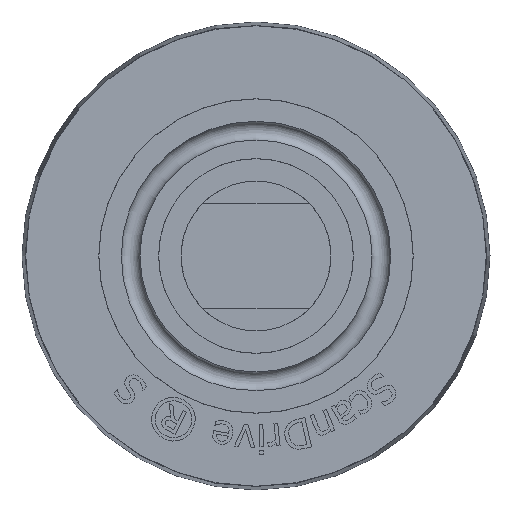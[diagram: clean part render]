
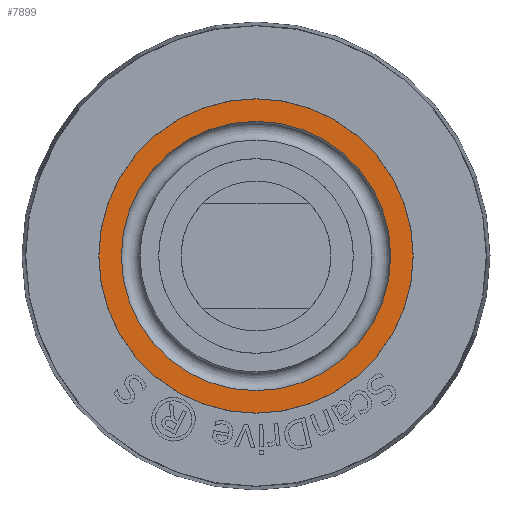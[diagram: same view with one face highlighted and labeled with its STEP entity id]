
A CAD part, left-side view. The second image highlights one B-rep face of the part: STEP entity #7899.
In plain terms, the highlighted planar face has unit normal (-1, 0, 0).
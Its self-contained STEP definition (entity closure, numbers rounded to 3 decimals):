
#57=CIRCLE('',#8278,17.99);
#58=CIRCLE('',#8280,20.99);
#144=FACE_BOUND('',#1474,.T.);
#991=FACE_OUTER_BOUND('',#1473,.T.);
#1473=EDGE_LOOP('',(#6274));
#1474=EDGE_LOOP('',(#6275));
#3585=VERTEX_POINT('',#12227);
#3586=VERTEX_POINT('',#12230);
#4556=EDGE_CURVE('',#3585,#3585,#57,.T.);
#4557=EDGE_CURVE('',#3586,#3586,#58,.T.);
#6274=ORIENTED_EDGE('',*,*,#4557,.T.);
#6275=ORIENTED_EDGE('',*,*,#4556,.F.);
#7559=PLANE('',#8279);
#7899=ADVANCED_FACE('',(#991,#144),#7559,.T.);
#8278=AXIS2_PLACEMENT_3D('',#12228,#9087,#9088);
#8279=AXIS2_PLACEMENT_3D('',#12229,#9089,#9090);
#8280=AXIS2_PLACEMENT_3D('',#12231,#9091,#9092);
#9087=DIRECTION('center_axis',(-1.,0.,0.));
#9088=DIRECTION('ref_axis',(0.,0.,1.));
#9089=DIRECTION('center_axis',(-1.,0.,0.));
#9090=DIRECTION('ref_axis',(0.,0.,1.));
#9091=DIRECTION('center_axis',(-1.,0.,0.));
#9092=DIRECTION('ref_axis',(0.,0.,1.));
#12227=CARTESIAN_POINT('',(-225.,0.,17.99));
#12228=CARTESIAN_POINT('Origin',(-225.,0.,0.));
#12229=CARTESIAN_POINT('Origin',(-225.,0.,17.99));
#12230=CARTESIAN_POINT('',(-225.,0.,20.99));
#12231=CARTESIAN_POINT('Origin',(-225.,0.,0.));
